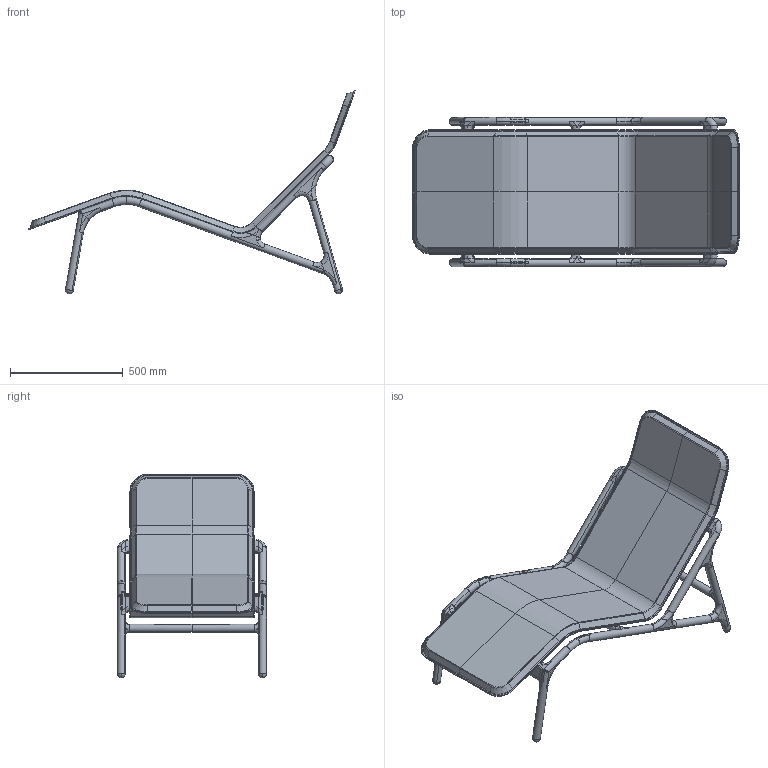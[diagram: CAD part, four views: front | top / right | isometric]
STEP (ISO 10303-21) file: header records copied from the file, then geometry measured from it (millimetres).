
FILE_DESCRIPTION (( 'STEP AP203' ), '1' );
FILE_NAME ('MARSHALL LOUNGE CHAIR.STEP', '2020-07-10T05:42:31', ( '' ), ( '' ), 'SwSTEP 2.0', 'SolidWorks 2020', '' );
FILE_SCHEMA (( 'CONFIG_CONTROL_DESIGN' ));
Length unit declared in the file: millimetre
Products named in the file (3): MARSAL POLA; MARSHALL LOUNGE CHAIR; MirrorMARSAL POLA
Assembly tree (2 placements, depth 2):
  MARSHALL LOUNGE CHAIR
    MARSAL POLA
    MirrorMARSAL POLA
Bounding box: 1445.12 x 659.99 x 901.61 mm (x, y, z)
Volume: 37413272.3 mm3; surface area: 3003451.5 mm2
Topology: 2 solids, 2 shells, 456 faces, 1162 edges, 688 vertices
Faces by surface type: torus 142, plane 134, cylinder 130, bspline 32, cone 10, sphere 8
Entity records: 24223 total; most frequent: CARTESIAN_POINT 12994, DIRECTION 2442, ORIENTED_EDGE 2288, EDGE_CURVE 1144, AXIS2_PLACEMENT_3D 1025, VERTEX_POINT 680, CIRCLE 596, FACE_OUTER_BOUND 456
